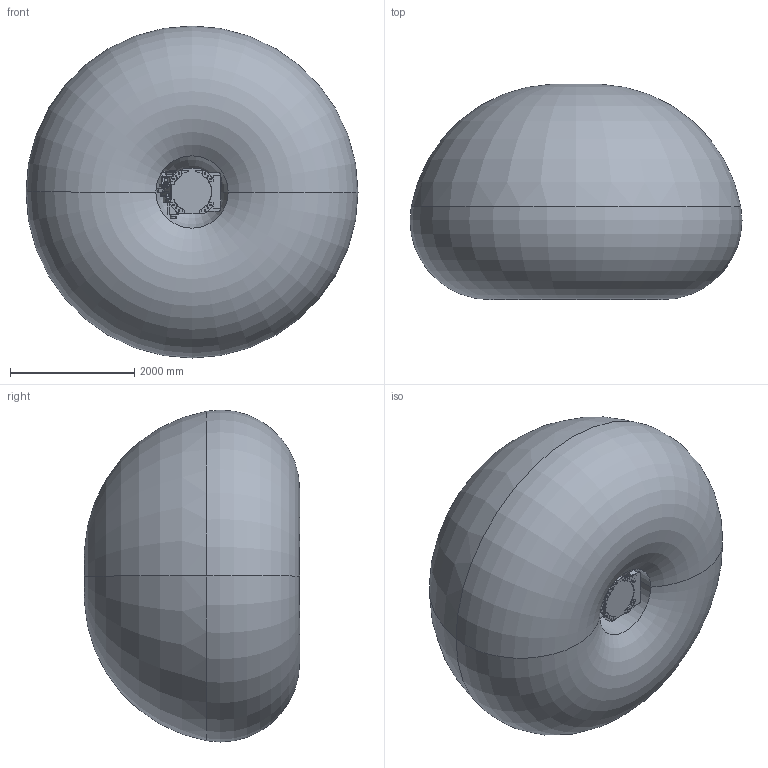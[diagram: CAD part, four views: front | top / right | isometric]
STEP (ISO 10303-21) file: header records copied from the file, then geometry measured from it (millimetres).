
FILE_DESCRIPTION (( 'STEP AP214' ), '1' );
FILE_NAME ('ER150-2700V1杅耀.STEP', '2023-09-01T01:04:31', ( '' ), ( '' ), 'SwSTEP 2.0', 'SolidWorks 2021', '' );
FILE_SCHEMA (( 'AUTOMOTIVE_DESIGN' ));
Length unit declared in the file: millimetre
Products named in the file (11): ER150-2700V1杅耀; 复件 ER150-2700V1手腕部件2^ER150-2700V1数模; 复件 ER150-2700V1工作空间^ER150-2700V1数模; 复件 ER150-2700V1小臂部件^ER150-2700V1数模; 复件 ER150-2700V1平衡缸活塞部件^ER150-2700V1数模; 复件 ER150-2700V1底座部件^ER150-2700V1数模; 复件 ER150-2700V1末端法兰^ER150-2700V1数模; 复件 ER150-2700V1平衡缸缸体部件^ER150-2700V1数模; 复件 ER150-2700V1大臂部件^ER150-2700V1数模; 复件 ER150-2700V1手腕部件1^ER150-2700V1数模; 复件 ER150-2700V1转座部件^ER150-2700V1数模
Assembly tree (10 placements, depth 2):
  ER150-2700V1杅耀
    复件 ER150-2700V1底座部件^ER150-2700V1数模
    复件 ER150-2700V1转座部件^ER150-2700V1数模
    复件 ER150-2700V1大臂部件^ER150-2700V1数模
    复件 ER150-2700V1平衡缸缸体部件^ER150-2700V1数模
    复件 ER150-2700V1平衡缸活塞部件^ER150-2700V1数模
    复件 ER150-2700V1小臂部件^ER150-2700V1数模
    复件 ER150-2700V1手腕部件1^ER150-2700V1数模
    复件 ER150-2700V1手腕部件2^ER150-2700V1数模
    复件 ER150-2700V1末端法兰^ER150-2700V1数模
    复件 ER150-2700V1工作空间^ER150-2700V1数模
Bounding box: 5347.82 x 3466.77 x 5347.82 mm (x, y, z)
Volume: 53955328198.1 mm3; surface area: 92765131.4 mm2
Topology: 10 solids, 58 shells, 7072 faces, 18079 edges, 11507 vertices
Faces by surface type: plane 3288, cylinder 2717, cone 562, bspline 288, torus 179, sphere 38
Entity records: 254610 total; most frequent: CARTESIAN_POINT 62203, DIRECTION 36512, ORIENTED_EDGE 35570, EDGE_CURVE 17785, AXIS2_PLACEMENT_3D 13356, VERTEX_POINT 11500, LINE 9800, VECTOR 9800
